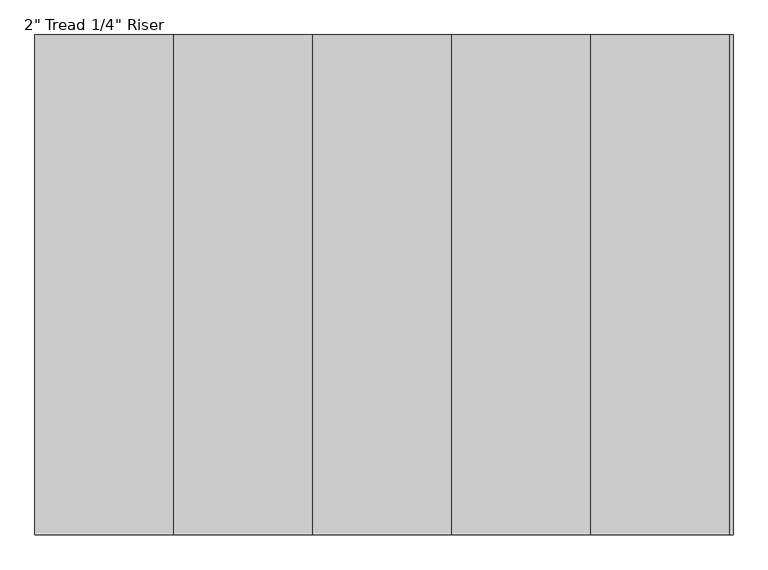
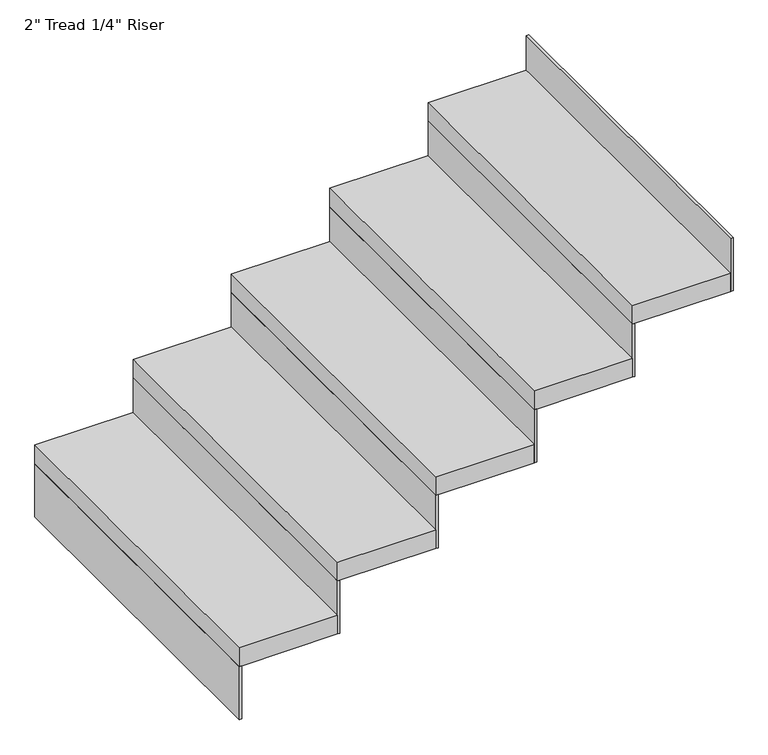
"""IFC4 building model written with IfcOpenShell, lengths in millimetres: stair flight geometry."""

from ifc_helpers import new_model, si_unit, frame, origin, place, context, project, spatial, polyline, outline, extrude, source, transform, mapped, element, save


def stair_flight_acb79ccf(model_context):
    return source(origin(), model_context, "Body", "SweptSolid", [
        extrude(outline(polyline([(113629.3286089, -18868.6990002), (113622.9786089, -18868.6990002), (113622.9786089, -17954.2990002), (113629.3286089, -17954.2990002), (113629.3286089, -18868.6990002)])), frame((0.0, 0.0, 2126.3428571), z_axis=(0.0, 0.0, 1.0), x_axis=(1.0, 0.0, 0.0)), (0.0, 0.0, 1.0), 145.1428571),
        extrude(outline(polyline([(113876.9786089, -17954.2990002), (113876.9786089, -18868.6990002), (113622.9786089, -18868.6990002), (113622.9786089, -17954.2990002), (113876.9786089, -17954.2990002)])), frame((0.0, 0.0, 2271.4857143), z_axis=(0.0, 0.0, 1.0), x_axis=(1.0, 0.0, 0.0)), (0.0, 0.0, 1.0), 50.8),
        extrude(outline(polyline([(113883.3286089, -18868.6990002), (113876.9786089, -18868.6990002), (113876.9786089, -17954.2990002), (113883.3286089, -17954.2990002), (113883.3286089, -18868.6990002)])), frame((0.0, 0.0, 2271.4857143), z_axis=(0.0, 0.0, 1.0), x_axis=(1.0, 0.0, 0.0)), (0.0, 0.0, 1.0), 145.1428571),
        extrude(outline(polyline([(114130.9786089, -17954.2990002), (114130.9786089, -18868.6990002), (113876.9786089, -18868.6990002), (113876.9786089, -17954.2990002), (114130.9786089, -17954.2990002)])), frame((0.0, 0.0, 2416.6285714), z_axis=(0.0, 0.0, 1.0), x_axis=(1.0, 0.0, 0.0)), (0.0, 0.0, 1.0), 50.8),
        extrude(outline(polyline([(114137.3286089, -18868.6990002), (114130.9786089, -18868.6990002), (114130.9786089, -17954.2990002), (114137.3286089, -17954.2990002), (114137.3286089, -18868.6990002)])), frame((0.0, 0.0, 2416.6285714), z_axis=(0.0, 0.0, 1.0), x_axis=(1.0, 0.0, 0.0)), (0.0, 0.0, 1.0), 145.1428571),
        extrude(outline(polyline([(114384.9786089, -17954.2990002), (114384.9786089, -18868.6990002), (114130.9786089, -18868.6990002), (114130.9786089, -17954.2990002), (114384.9786089, -17954.2990002)])), frame((0.0, 0.0, 2561.7714286), z_axis=(0.0, 0.0, 1.0), x_axis=(1.0, 0.0, 0.0)), (0.0, 0.0, 1.0), 50.8),
        extrude(outline(polyline([(114391.3286089, -18868.6990002), (114384.9786089, -18868.6990002), (114384.9786089, -17954.2990002), (114391.3286089, -17954.2990002), (114391.3286089, -18868.6990002)])), frame((0.0, 0.0, 2561.7714286), z_axis=(0.0, 0.0, 1.0), x_axis=(1.0, 0.0, 0.0)), (0.0, 0.0, 1.0), 145.1428571),
        extrude(outline(polyline([(114638.9786089, -17954.2990002), (114638.9786089, -18868.6990002), (114384.9786089, -18868.6990002), (114384.9786089, -17954.2990002), (114638.9786089, -17954.2990002)])), frame((0.0, 0.0, 2706.9142857), z_axis=(0.0, 0.0, 1.0), x_axis=(1.0, 0.0, 0.0)), (0.0, 0.0, 1.0), 50.8),
        extrude(outline(polyline([(114645.3286089, -18868.6990002), (114638.9786089, -18868.6990002), (114638.9786089, -17954.2990002), (114645.3286089, -17954.2990002), (114645.3286089, -18868.6990002)])), frame((0.0, 0.0, 2706.9142857), z_axis=(0.0, 0.0, 1.0), x_axis=(1.0, 0.0, 0.0)), (0.0, 0.0, 1.0), 145.1428571),
        extrude(outline(polyline([(114899.3286089, -18868.6990002), (114892.9786089, -18868.6990002), (114892.9786089, -17954.2990002), (114899.3286089, -17954.2990002), (114899.3286089, -18868.6990002)])), frame((0.0, 0.0, 2852.0571429), z_axis=(0.0, 0.0, 1.0), x_axis=(1.0, 0.0, 0.0)), (0.0, 0.0, 1.0), 145.1428571),
        extrude(outline(polyline([(114892.9786089, -17954.2990002), (114892.9786089, -18868.6990002), (114638.9786089, -18868.6990002), (114638.9786089, -17954.2990002), (114892.9786089, -17954.2990002)])), frame((0.0, 0.0, 2852.0571429), z_axis=(0.0, 0.0, 1.0), x_axis=(1.0, 0.0, 0.0)), (0.0, 0.0, 1.0), 50.8),
    ])


if __name__ == "__main__":
    model = new_model("IFC4")
    model_context = context("Model", 3, world=origin())
    ifc_project = project(units=[si_unit("LENGTHUNIT", "METRE", prefix="MILLI")], contexts=[model_context])
    site = spatial("IfcSite", under=ifc_project)
    building = spatial("IfcBuilding", under=site)
    placement = place(None, origin())
    stair_flight_shape = stair_flight_acb79ccf(model_context)
    element("IfcStairFlight", 1, ObjectType="2\" Tread 1/4\" Riser", at=placement, inside=building, context=model_context, shape_type="MappedRepresentation", body=[
        mapped(stair_flight_shape, transform((0.0, 0.0, 0.0), x_axis=(1.0, 0.0, 0.0), y_axis=(0.0, 1.0, 0.0), z_axis=(0.0, 0.0, 1.0))),
    ])
    save(model, "model.ifc")
